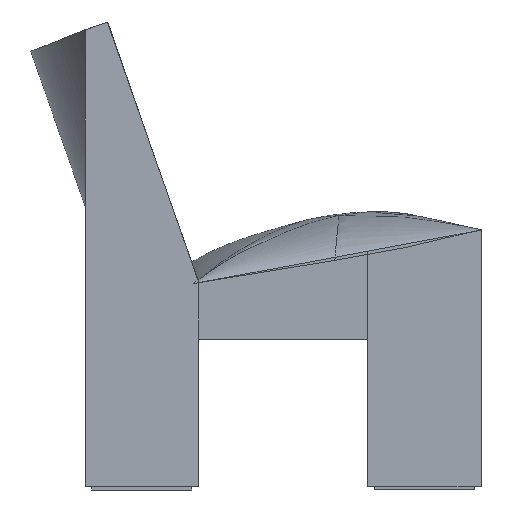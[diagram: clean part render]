
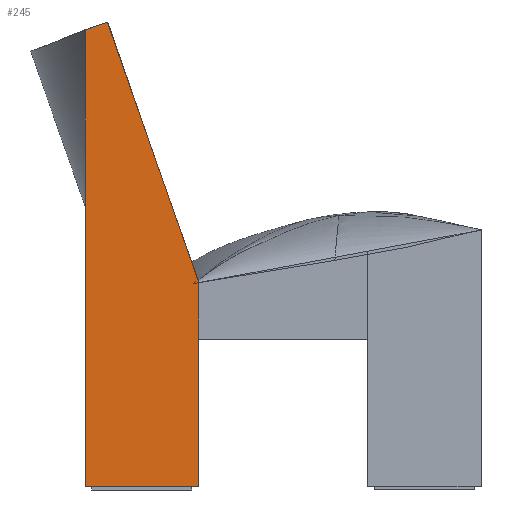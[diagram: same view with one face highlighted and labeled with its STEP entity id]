
A CAD part, left-side view. The second image highlights one B-rep face of the part: STEP entity #245.
In plain terms, the highlighted planar face has unit normal (-1, 0, 0).
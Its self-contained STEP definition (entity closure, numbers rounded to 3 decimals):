
#245=ADVANCED_FACE('',(#432),#2955,.T.);
#432=FACE_OUTER_BOUND('',#619,.T.);
#619=EDGE_LOOP('',(#889,#890,#891,#892,#893,#894));
#889=ORIENTED_EDGE('',*,*,#1749,.F.);
#890=ORIENTED_EDGE('',*,*,#1742,.F.);
#891=ORIENTED_EDGE('',*,*,#1741,.T.);
#892=ORIENTED_EDGE('',*,*,#1754,.F.);
#893=ORIENTED_EDGE('',*,*,#1759,.F.);
#894=ORIENTED_EDGE('',*,*,#1755,.F.);
#1741=EDGE_CURVE('',#2659,#2658,#2206,.T.);
#1742=EDGE_CURVE('',#2659,#2661,#2207,.T.);
#1749=EDGE_CURVE('',#2661,#2667,#2214,.T.);
#1754=EDGE_CURVE('',#2665,#2658,#2219,.T.);
#1755=EDGE_CURVE('',#2667,#2668,#2220,.T.);
#1759=EDGE_CURVE('',#2668,#2665,#2224,.T.);
#2206=B_SPLINE_CURVE_WITH_KNOTS('',1,(#3552,#3553),.UNSPECIFIED.,.F.,.F.,
(2,2),(0.,430.373),.UNSPECIFIED.);
#2207=B_SPLINE_CURVE_WITH_KNOTS('',1,(#3554,#3555),.UNSPECIFIED.,.F.,.F.,
(2,2),(0.,80.115),.UNSPECIFIED.);
#2214=B_SPLINE_CURVE_WITH_KNOTS('',1,(#3572,#3573),.UNSPECIFIED.,.F.,.F.,
(2,2),(80.115,289.459),.UNSPECIFIED.);
#2219=B_SPLINE_CURVE_WITH_KNOTS('',1,(#3584,#3585),.UNSPECIFIED.,.F.,.F.,
(2,2),(-467.152,-430.373),.UNSPECIFIED.);
#2220=B_SPLINE_CURVE_WITH_KNOTS('',1,(#3586,#3587),.UNSPECIFIED.,.F.,.F.,
(2,2),(439.982,617.017),.UNSPECIFIED.);
#2224=B_SPLINE_CURVE_WITH_KNOTS('',1,(#3594,#3595),.UNSPECIFIED.,.F.,.F.,
(2,2),(-1297.354,-585.338),.UNSPECIFIED.);
#2658=VERTEX_POINT('',#3539);
#2659=VERTEX_POINT('',#3540);
#2661=VERTEX_POINT('',#3542);
#2665=VERTEX_POINT('',#3546);
#2667=VERTEX_POINT('',#3548);
#2668=VERTEX_POINT('',#3549);
#2955=PLANE('',#3044);
#3044=AXIS2_PLACEMENT_3D('',#3534,#3118,$);
#3118=DIRECTION('',(-1.,0.,0.));
#3534=CARTESIAN_POINT('',(-5.,406.959,-103.55));
#3539=CARTESIAN_POINT('',(-5.,571.79,729.178));
#3540=CARTESIAN_POINT('',(-5.,429.465,323.02));
#3542=CARTESIAN_POINT('',(-5.,429.465,235.));
#3546=CARTESIAN_POINT('',(-5.,606.5,717.016));
#3548=CARTESIAN_POINT('',(-5.,429.465,5.));
#3549=CARTESIAN_POINT('',(-5.,606.5,5.));
#3552=CARTESIAN_POINT('',(-5.,429.465,323.02));
#3553=CARTESIAN_POINT('',(-5.,571.79,729.178));
#3554=CARTESIAN_POINT('',(-5.,429.465,323.02));
#3555=CARTESIAN_POINT('',(-5.,429.465,235.));
#3572=CARTESIAN_POINT('',(-5.,429.465,235.));
#3573=CARTESIAN_POINT('',(-5.,429.465,5.));
#3584=CARTESIAN_POINT('',(-5.,606.5,717.016));
#3585=CARTESIAN_POINT('',(-5.,571.79,729.178));
#3586=CARTESIAN_POINT('',(-5.,429.465,5.));
#3587=CARTESIAN_POINT('',(-5.,606.5,5.));
#3594=CARTESIAN_POINT('',(-5.,606.5,5.));
#3595=CARTESIAN_POINT('',(-5.,606.5,717.016));
